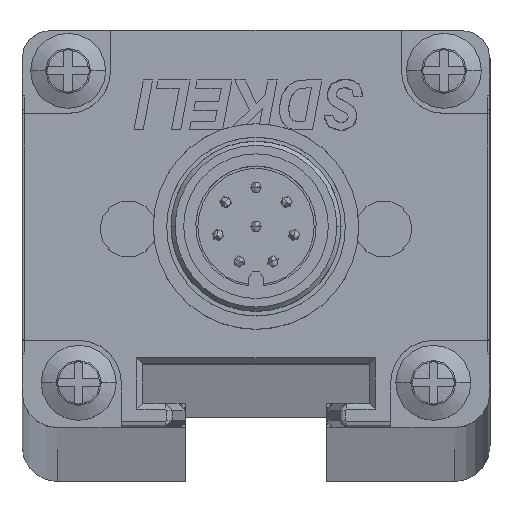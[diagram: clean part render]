
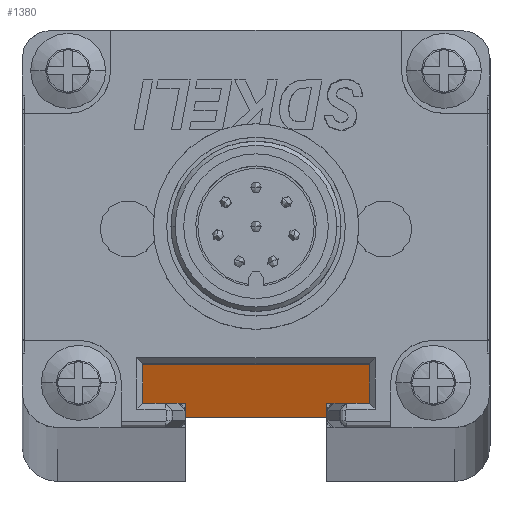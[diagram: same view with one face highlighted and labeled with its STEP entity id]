
A CAD part, top view. The second image highlights one B-rep face of the part: STEP entity #1380.
In plain terms, the highlighted planar face has unit normal (0, -1, 0).
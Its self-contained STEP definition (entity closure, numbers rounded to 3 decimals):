
#2=DIRECTION('',(1.,0.,0.));
#3=VECTOR('',#2,19.608);
#4=CARTESIAN_POINT('',(-9.804,-8.928,0.));
#5=LINE('',#4,#3);
#310=DIRECTION('',(0.,0.,1.));
#311=VECTOR('',#310,2160.);
#312=CARTESIAN_POINT('',(-9.804,-8.928,0.));
#313=LINE('',#312,#311);
#602=DIRECTION('',(0.,0.,1.));
#603=VECTOR('',#602,2160.);
#604=CARTESIAN_POINT('',(9.804,-8.928,0.));
#605=LINE('',#604,#603);
#606=DIRECTION('',(1.,0.,0.));
#607=VECTOR('',#606,19.608);
#608=CARTESIAN_POINT('',(-9.804,-8.928,2160.));
#609=LINE('',#608,#607);
#914=CARTESIAN_POINT('',(-9.804,-8.928,0.));
#915=CARTESIAN_POINT('',(9.804,-8.928,0.));
#916=VERTEX_POINT('',#914);
#917=VERTEX_POINT('',#915);
#1062=CARTESIAN_POINT('',(-9.804,-8.928,2160.));
#1063=CARTESIAN_POINT('',(9.804,-8.928,2160.));
#1064=VERTEX_POINT('',#1062);
#1065=VERTEX_POINT('',#1063);
#1366=CARTESIAN_POINT('',(-9.804,-8.928,0.));
#1367=DIRECTION('',(0.,-1.,0.));
#1368=DIRECTION('',(1.,0.,0.));
#1369=AXIS2_PLACEMENT_3D('',#1366,#1367,#1368);
#1370=PLANE('',#1369);
#1371=ORIENTED_EDGE('',*,*,#1215,.F.);
#1373=ORIENTED_EDGE('',*,*,#1372,.T.);
#1375=ORIENTED_EDGE('',*,*,#1374,.T.);
#1377=ORIENTED_EDGE('',*,*,#1376,.F.);
#1378=EDGE_LOOP('',(#1371,#1373,#1375,#1377));
#1379=FACE_OUTER_BOUND('',#1378,.F.);
#1380=ADVANCED_FACE('',(#1379),#1370,.T.);
#1215=EDGE_CURVE('',#916,#917,#5,.T.);
#1372=EDGE_CURVE('',#916,#1064,#313,.T.);
#1374=EDGE_CURVE('',#1064,#1065,#609,.T.);
#1376=EDGE_CURVE('',#917,#1065,#605,.T.);
